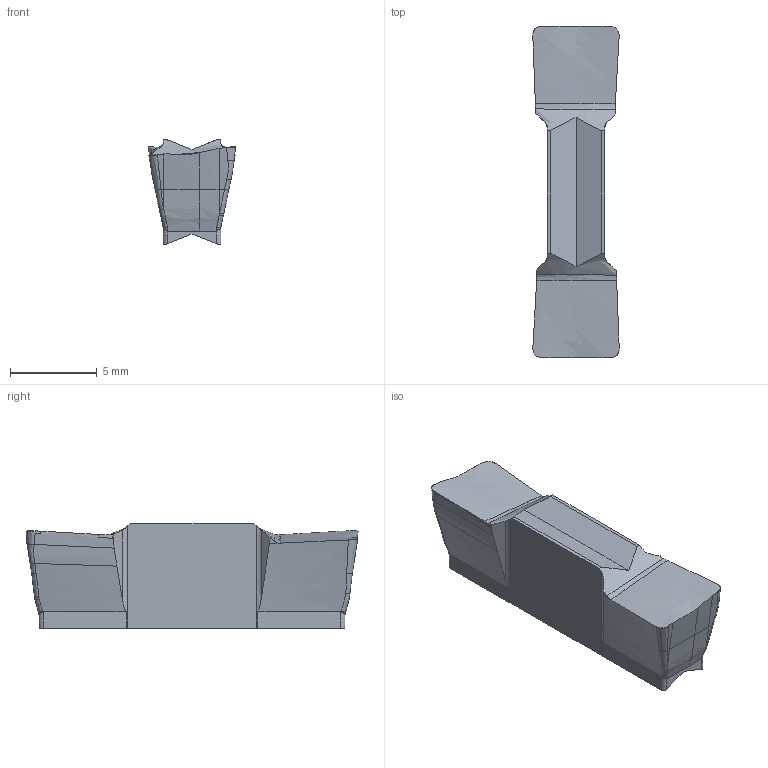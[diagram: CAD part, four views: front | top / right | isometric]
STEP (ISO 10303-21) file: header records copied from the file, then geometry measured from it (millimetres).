
FILE_DESCRIPTION(('CATIA V5 STEP','CAx-IF Rec.Pracs.--- Model Styling and Organization---1.2---2011-12-15'),'2;1');
FILE_NAME('\\nas01\drv1\utils\eitdev\rte\eit\transmagicconvert\db\out\635747212820038652\6200087D.stp','2015-08-09T09:48:12+00:00',('none'),('none'),'CATIA Version 5 Release 21 SP 5 (IN-10)','CATIA V5 STEP AP214','none');
FILE_SCHEMA(('AUTOMOTIVE_DESIGN { 1 0 10303 214 1 1 1 1 }'));
Length unit declared in the file: millimetre
Products named in the file (1): GRIP 5005Y
Bounding box: 4.97 x 19.09 x 6.03 mm (x, y, z)
Volume: 349.7 mm3; surface area: 391.1 mm2
Topology: 1 solids, 1 shells, 107 faces, 389 edges, 284 vertices
Faces by surface type: bspline 64, extrusion 31, plane 8, cylinder 4
Entity records: 15756 total; most frequent: CARTESIAN_POINT 13312, ORIENTED_EDGE 700, B_SPLINE_CURVE_WITH_KNOTS 372, EDGE_CURVE 350, VERTEX_POINT 245, ADVANCED_FACE 107, EDGE_LOOP 107, FACE_OUTER_BOUND 107
